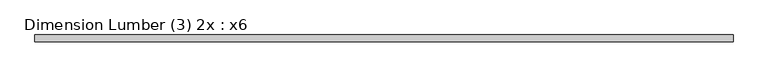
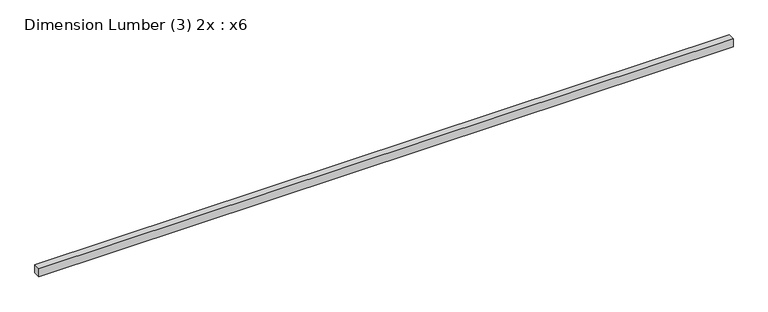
"""IFC4 building model written with IfcOpenShell, lengths in millimetres: beam geometry, Dimension Lumber (3) 2x : x6."""

from ifc_helpers import new_model, si_unit, frame, origin, place, context, project, spatial, polyline, outline, extrude, source, transform, mapped, element, save


def dimension_lumber_3_2x_x6_941dd0b6(model_context):
    return source(origin(), model_context, "Body", "SweptSolid", [
        extrude(outline(polyline([(5800.725, 57.15), (5800.725, -57.15), (-5781.675, -57.15), (-5781.675, 57.15), (5800.725, 57.15)])), frame((0.0, 0.0, -69.85), z_axis=(0.0, 0.0, 1.0), x_axis=(1.0, 0.0, 0.0)), (0.0, 0.0, 1.0), 139.7),
    ])


if __name__ == "__main__":
    model = new_model("IFC4")
    model_context = context("Model", 3, world=origin())
    ifc_project = project(units=[si_unit("LENGTHUNIT", "METRE", prefix="MILLI")], contexts=[model_context])
    site = spatial("IfcSite", under=ifc_project)
    building = spatial("IfcBuilding", under=site)
    placement = place(None, origin())
    dimension_lumber_3_2x_x6_shape = dimension_lumber_3_2x_x6_941dd0b6(model_context)
    element("IfcBeam", 1, ObjectType="Dimension Lumber (3) 2x : x6", at=placement, inside=building, context=model_context, shape_type="MappedRepresentation", body=[
        mapped(dimension_lumber_3_2x_x6_shape, transform((0.0, 0.0, 0.0), x_axis=(1.0, 0.0, 0.0), y_axis=(0.0, 1.0, 0.0), z_axis=(0.0, 0.0, 1.0))),
    ])
    save(model, "model.ifc")
